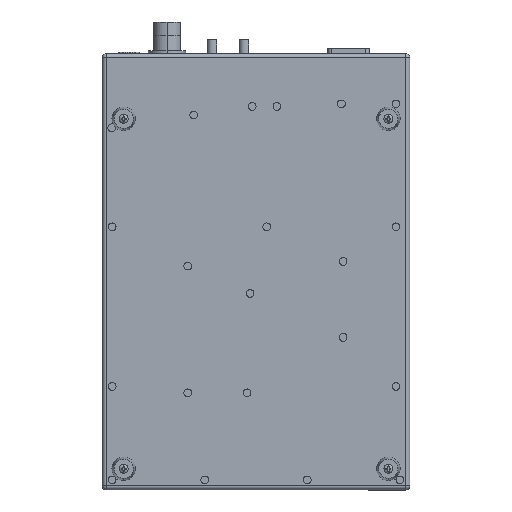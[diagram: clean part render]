
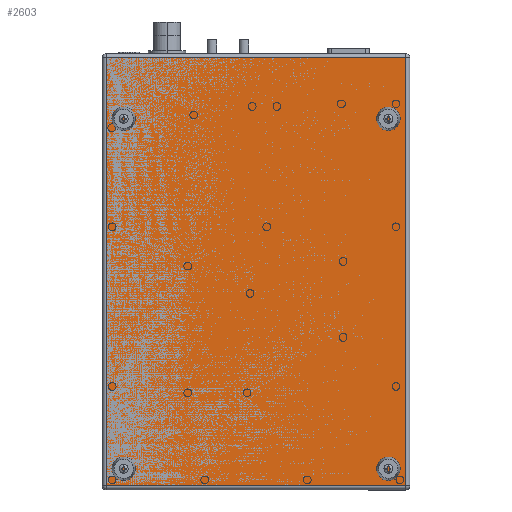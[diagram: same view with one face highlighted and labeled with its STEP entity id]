
A CAD part, top view. The second image highlights one B-rep face of the part: STEP entity #2603.
In plain terms, the highlighted planar face has unit normal (0, 0, 1).
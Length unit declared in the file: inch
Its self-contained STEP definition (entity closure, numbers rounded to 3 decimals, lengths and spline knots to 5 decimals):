
#439 = DIRECTION ( 'NONE',  ( -1., 0., 0. ) ) ;
#458 = EDGE_CURVE ( 'NONE', #10025, #14841, #19869, .T. ) ;
#514 = ORIENTED_EDGE ( 'NONE', *, *, #19687, .T. ) ;
#1016 = CARTESIAN_POINT ( 'NONE',  ( 7.012, 0.032, 0.123 ) ) ;
#2072 = VERTEX_POINT ( 'NONE', #1016 ) ;
#2603 = ADVANCED_FACE ( 'NONE', ( #2734 ), #13671, .F. ) ;
#2734 = FACE_OUTER_BOUND ( 'NONE', #4555, .T. ) ;
#2833 = CARTESIAN_POINT ( 'NONE',  ( 7.012, -10.001, 0.123 ) ) ;
#3249 = DIRECTION ( 'NONE',  ( -1., 0., 0. ) ) ;
#3408 = DIRECTION ( 'NONE',  ( 0., 0., -1. ) ) ;
#3567 = DIRECTION ( 'NONE',  ( 0., -1., 0. ) ) ;
#4555 = EDGE_LOOP ( 'NONE', ( #30481, #514, #17183, #11641 ) ) ;
#4737 = EDGE_CURVE ( 'NONE', #10644, #2072, #22642, .T. ) ;
#5595 = CARTESIAN_POINT ( 'NONE',  ( -0.012, 0.032, 0.123 ) ) ;
#9350 = CARTESIAN_POINT ( 'NONE',  ( 7.012, -10.001, 0.123 ) ) ;
#10025 = VERTEX_POINT ( 'NONE', #28053 ) ;
#10644 = VERTEX_POINT ( 'NONE', #9350 ) ;
#11641 = ORIENTED_EDGE ( 'NONE', *, *, #35297, .T. ) ;
#11880 = VECTOR ( 'NONE', #439, 39.37008 ) ;
#13671 = PLANE ( 'NONE',  #30442 ) ;
#14218 = VECTOR ( 'NONE', #15596, 39.37008 ) ;
#14369 = LINE ( 'NONE', #5595, #11880 ) ;
#14841 = VERTEX_POINT ( 'NONE', #21019 ) ;
#15596 = DIRECTION ( 'NONE',  ( 1., 0., 0. ) ) ;
#16644 = CARTESIAN_POINT ( 'NONE',  ( -0.012, -10.001, 0.123 ) ) ;
#17183 = ORIENTED_EDGE ( 'NONE', *, *, #4737, .T. ) ;
#19639 = DIRECTION ( 'NONE',  ( 0., 1., 0. ) ) ;
#19687 = EDGE_CURVE ( 'NONE', #14841, #10644, #34896, .T. ) ;
#19698 = VECTOR ( 'NONE', #19639, 39.37008 ) ;
#19869 = LINE ( 'NONE', #30602, #27746 ) ;
#21019 = CARTESIAN_POINT ( 'NONE',  ( -0.012, -10.001, 0.123 ) ) ;
#22642 = LINE ( 'NONE', #2833, #19698 ) ;
#26123 = CARTESIAN_POINT ( 'NONE',  ( -0.012, -10.001, 0.123 ) ) ;
#27746 = VECTOR ( 'NONE', #3567, 39.37008 ) ;
#28053 = CARTESIAN_POINT ( 'NONE',  ( -0.012, 0.032, 0.123 ) ) ;
#30442 = AXIS2_PLACEMENT_3D ( 'NONE', #16644, #3408, #3249 ) ;
#30481 = ORIENTED_EDGE ( 'NONE', *, *, #458, .T. ) ;
#30602 = CARTESIAN_POINT ( 'NONE',  ( -0.012, -10.001, 0.123 ) ) ;
#34896 = LINE ( 'NONE', #26123, #14218 ) ;
#35297 = EDGE_CURVE ( 'NONE', #2072, #10025, #14369, .T. ) ;
